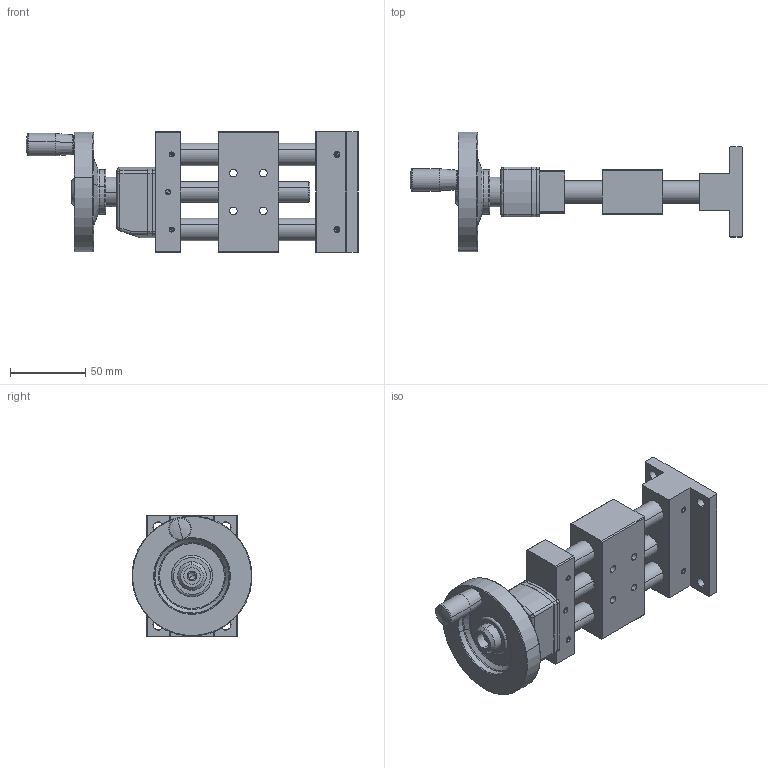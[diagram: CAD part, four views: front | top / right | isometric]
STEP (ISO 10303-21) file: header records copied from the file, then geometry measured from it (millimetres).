
FILE_DESCRIPTION (( 'STEP AP203' ), '1' );
FILE_NAME ('BHST40-25.STEP', '2024-02-28T07:56:36', ( 'China' ), ( 'Microsoft' ), 'SwSTEP 2.0', 'SolidWorks 2024', '' );
FILE_SCHEMA (( 'CONFIG_CONTROL_DESIGN' ));
Length unit declared in the file: millimetre
Products named in the file (1): BHST40-25
Bounding box: 221 x 79.79 x 80 mm (x, y, z)
Volume: 329093.8 mm3; surface area: 103295.6 mm2
Topology: 28 solids, 28 shells, 655 faces, 1500 edges, 905 vertices
Faces by surface type: plane 286, cylinder 193, cone 141, torus 22, bspline 11, sphere 2
Entity records: 19278 total; most frequent: CARTESIAN_POINT 4150, DIRECTION 3331, ORIENTED_EDGE 2932, EDGE_CURVE 1466, AXIS2_PLACEMENT_3D 1267, VERTEX_POINT 905, VECTOR 797, LINE 797
